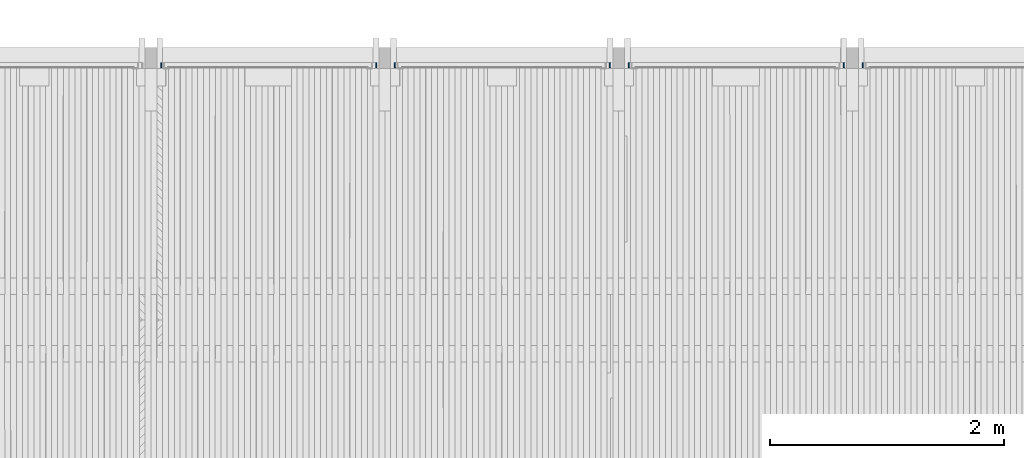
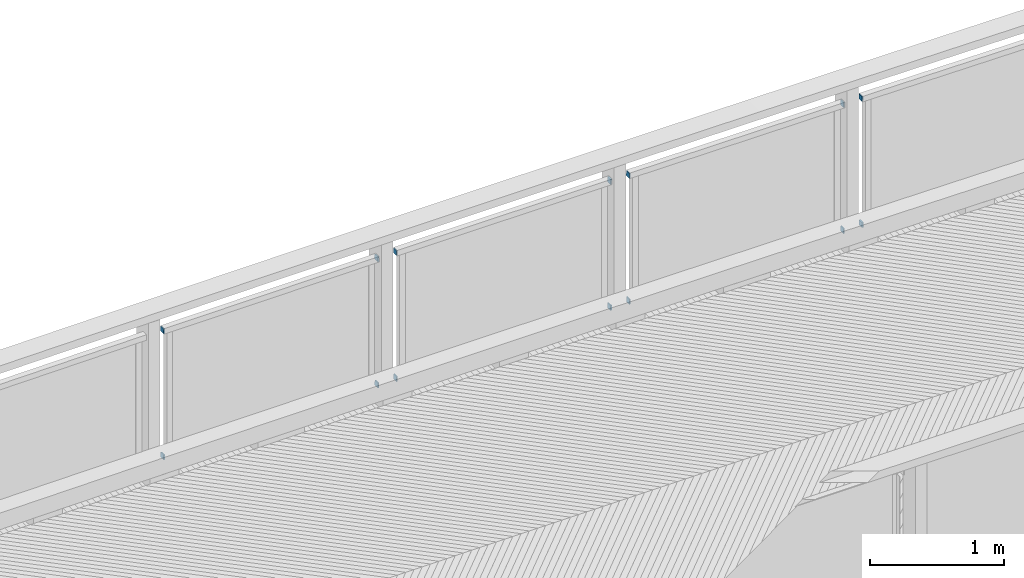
# One storey, part 61 of 65: 14 beams.
"""IFC2X3 building model written with IfcOpenShell, lengths in millimetres."""

from ifc_helpers import new_model, si_unit, frame, origin_with_axes, place, context, subcontext, project, spatial, faceted_brep, material, type_object, element, save


model = new_model("IFC2X3")

# Units and contexts
model_context = context("Model", 3, precision=1e-05, world=origin_with_axes())
body_context = subcontext(model_context, "Body", "Model", "MODEL_VIEW")
ifc_project = project(units=[si_unit("LENGTHUNIT", "METRE", prefix="MILLI"), si_unit("AREAUNIT", "SQUARE_METRE"), si_unit("VOLUMEUNIT", "CUBIC_METRE"), si_unit("MASSUNIT", "GRAM", prefix="KILO"), si_unit("TIMEUNIT", "SECOND"), si_unit("PLANEANGLEUNIT", "RADIAN"), si_unit("SOLIDANGLEUNIT", "STERADIAN"), si_unit("THERMODYNAMICTEMPERATUREUNIT", "DEGREE_CELSIUS"), si_unit("LUMINOUSINTENSITYUNIT", "LUMEN")], contexts=[model_context])

# Site, building, storey
site_placement = place(None, origin_with_axes())
site = spatial("IfcSite", under=ifc_project, at=site_placement, Name="Undefined", CompositionType="ELEMENT")
building_placement = place(site_placement, origin_with_axes())
building = spatial("IfcBuilding", under=site, at=building_placement, Name="Undefined", CompositionType="ELEMENT")
storey_placement = place(building_placement, origin_with_axes())
storey = spatial("IfcBuildingStorey", under=building, at=storey_placement, Name="Undefined", CompositionType="ELEMENT", Elevation=0.0)

# Beams
ifc_material = material(Name="STEEL/S235JR")
beam_type = type_object("IfcBeamType", Name="PL45*10", PredefinedType="NOTDEFINED")
for number, where, z_axis, x_axis, name in (
    (1, (10087.5410243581, 24519.989999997, 4435.08499730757), (0.0194951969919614, 0.0, 0.999809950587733), (0.0, 1.0, 0.0), "BEAM"),
    (2, (8087.62946652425, 24519.9900000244, 4438.69231366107), (0.0161829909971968, 0.0, 0.999869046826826), (0.0, 1.0, 0.0), "BEAM"),
    (3, (9926.76044431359, 24519.9900000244, 4435.79022576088), (0.0161829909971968, 0.0, 0.999869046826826), (0.0, 1.0, 0.0), "BEAM"),
    (4, (6087.70997360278, 24519.9900000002, 4435.66631633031), (0.012866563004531, 0.0, 0.999917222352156), (0.0, 1.0, 0.0), "BEAM"),
    (5, (7926.84046080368, 24519.9900000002, 4438.86422516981), (0.012866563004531, 0.0, 0.999917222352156), (0.0, 1.0, 0.0), "BEAM"),
    (6, (4087.8052180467, 24519.9899999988, 4426.0143288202), (0.00955403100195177, 0.0, 0.999954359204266), (0.0, 1.0, 0.0), "BEAM"),
    (7, (5926.91501989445, 24519.9899999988, 4435.3047714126), (0.00955403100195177, 0.0, 0.999954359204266), (0.0, 1.0, 0.0), "BEAM"),
    (8, (10088.3488453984, 24519.9900000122, 3290.07879384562), (-0.0194951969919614, 0.0, -0.999809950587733), (0.0, 1.0, 0.0), "BEAM"),
    (9, (8088.24086263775, 24519.9900000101, 3293.68852994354), (-0.0161829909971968, 0.0, -0.999869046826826), (0.0, 1.0, 0.0), "BEAM"),
    (10, (9927.38090642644, 24520.0199999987, 3290.78659845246), (-0.0167915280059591, 0.0, -0.999859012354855), (0.0, 1.0, 0.0), "BEAM"),
    (11, (6088.1532167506, 24519.9900000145, 3290.66428220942), (-0.012866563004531, 0.0, -0.999917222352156), (0.0, 1.0, 0.0), "BEAM"),
    (12, (7927.2927693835, 24520.0200000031, 3293.86237752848), (-0.0134751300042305, 0.0, -0.999909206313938), (0.0, 1.0, 0.0), "BEAM"),
    (13, (4088.0861223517, 24519.9900000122, 3281.01353908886), (-0.00955403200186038, 0.0, -0.999954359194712), (0.0, 1.0, 0.0), "BEAM"),
    (14, (5927.20498895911, 24520.0200000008, 3290.30419819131), (-0.0101626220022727, 0.0, -0.999948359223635), (0.0, 1.0, 0.0), "BEAM"),
):
    element("IfcBeam", number, at=place(storey_placement, frame(where, z_axis=z_axis, x_axis=x_axis)), inside=storey, type_object=beam_type, material=ifc_material, Name=name, ObjectType="PL45*10", context=body_context, shape_type="Brep", body=[
        faceted_brep([(0.0, 5.0, -22.5), (0.0, 5.0, 22.5), (45.0, 5.0, 22.5), (45.0, 5.0, -22.5), (0.0, -5.0, 22.5), (45.0, -5.0, 22.5), (0.0, -5.0, -22.5000000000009), (45.0, -5.0, -22.5000000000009)], [[[0, 1, 2, 3]], [[1, 4, 5, 2]], [[4, 6, 7, 5]], [[6, 0, 3, 7]], [[5, 7, 3, 2]], [[6, 4, 1, 0]]]),
    ])

save(model, "model.ifc")
